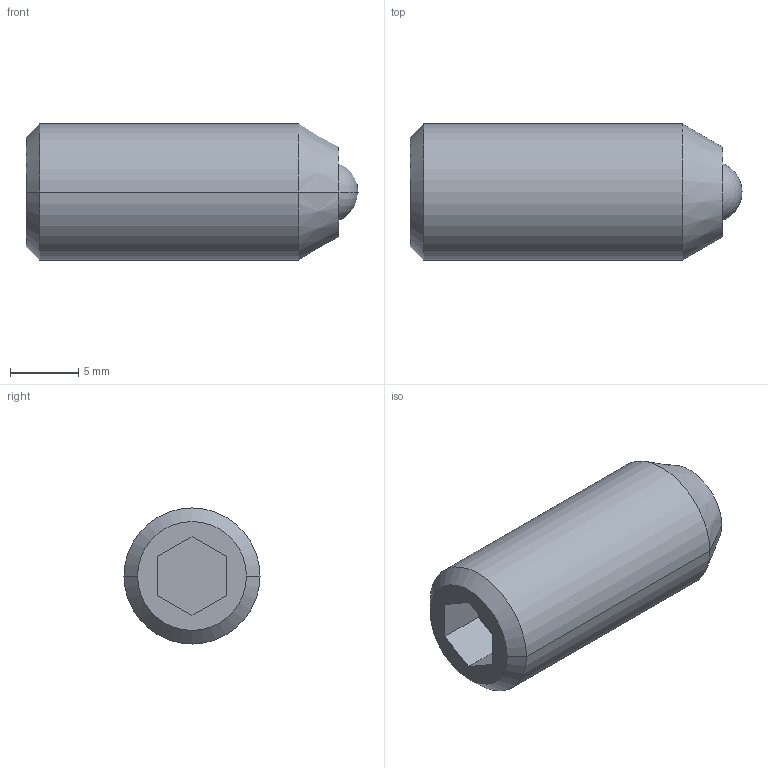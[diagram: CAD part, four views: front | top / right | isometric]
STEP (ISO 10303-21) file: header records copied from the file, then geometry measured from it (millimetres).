
FILE_DESCRIPTION (( 'STEP AP214' ), '1' );
FILE_NAME ('615.9-M10-KN.step', '2022-12-09T10:31:00', ( '' ), ( '' ), 'SwSTEP 2.0', 'SolidWorks 2022', '' );
FILE_SCHEMA (( 'AUTOMOTIVE_DESIGN' ));
Length unit declared in the file: millimetre
Products named in the file (1): 615.9-M10-KN
Bounding box: 24.4 x 10 x 10 mm (x, y, z)
Volume: 1657.2 mm3; surface area: 878.9 mm2
Topology: 1 solids, 1 shells, 23 faces, 48 edges, 31 vertices
Faces by surface type: plane 11, cylinder 6, cone 4, sphere 2
Entity records: 685 total; most frequent: DIRECTION 116, CARTESIAN_POINT 103, ORIENTED_EDGE 96, EDGE_CURVE 48, AXIS2_PLACEMENT_3D 44, VERTEX_POINT 31, LINE 28, VECTOR 28
